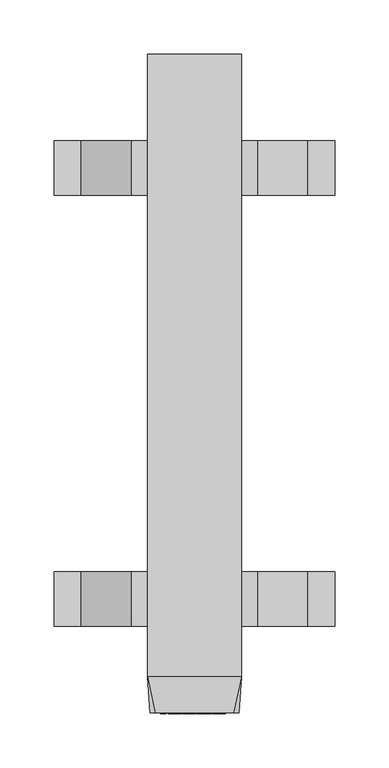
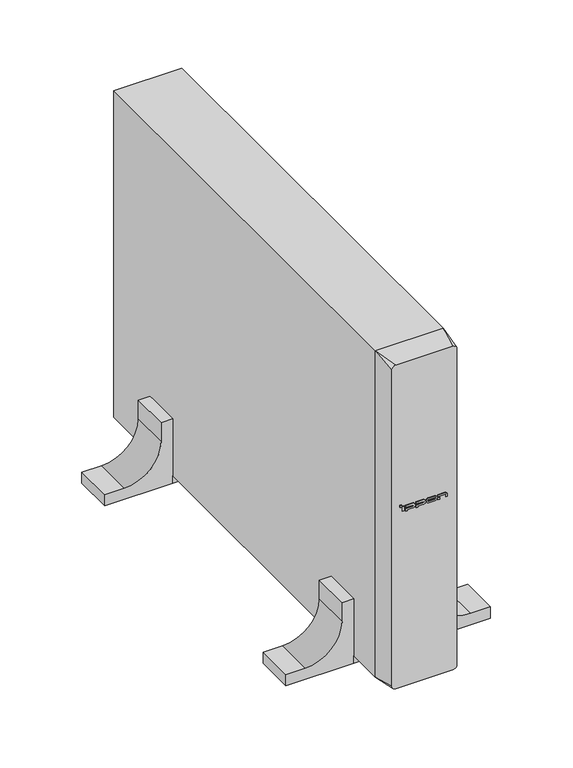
"""IFC4 building model written with IfcOpenShell, lengths in millimetres: proxy geometry, IPPON_EBM_Smart Winner II_1500_2000_2000E_3000ВА : EBM Smart Winner II 2000/3000 ВА."""

from ifc_helpers import new_model, si_unit, point, frame, frame_2d, origin, origin_with_axes, place, context, project, spatial, polyline, circle_curve, trimmed, segment, composite_curve, outline, extrude, source, transform, mapped, element, save
from ifc_brep_helpers import plane_surface, spline_surface, advanced_brep


def electrical_equipment_ef5bf3b2(model_context):
    return source(origin(), model_context, "Body", "SolidModel", [
        extrude(outline(polyline([(-29.1718133, -1.0), (-31.1718133, -1.0), (-31.1718133, 0.0), (-29.1718133, 0.0), (-29.1718133, -1.0)])), frame((0.0, 0.0, 253.8445835), z_axis=(0.0, 0.0, 1.0), x_axis=(1.0, 0.0, 0.0)), (0.0, 0.0, 1.0), 2.3),
        extrude(outline(polyline([(18.6035474, -1.0), (16.6035474, -1.0), (16.6035474, 0.0), (18.6035474, 0.0), (18.6035474, -1.0)])), frame((0.0, 0.0, 247.8445835), z_axis=(0.0, 0.0, 1.0), x_axis=(1.0, 0.0, 0.0)), (0.0, 0.0, 1.0), 2.2268231),
        extrude(outline(polyline([(-26.438565, -1.0), (-28.4833324, -1.0), (-28.4833324, 0.0), (-26.438565, 0.0), (-26.438565, -1.0)])), frame((0.0, 0.0, 247.8445835), z_axis=(0.0, 0.0, 1.0), x_axis=(1.0, 0.0, 0.0)), (0.0, 0.0, 1.0), 6.0),
        extrude(outline(composite_curve([segment(polyline([(251.5821435, -24.2241109), (251.5821435, -14.9923536)]), True, "CONTINUOUS"), segment(trimmed(circle_curve(frame_2d((250.7256642, -14.9923536)), 0.8564793), [point((251.5821435, -14.9923536))], [point((249.8691849, -14.9923536))], True, "CARTESIAN"), True, "CONTINUOUS"), segment(polyline([(249.8691849, -14.9923536), (249.8691849, -24.2241109), (246.3786803, -24.2241109), (246.3786803, -22.2241109), (247.8445835, -22.2241109), (247.8445835, -15.1486036)]), True, "CONTINUOUS"), segment(trimmed(circle_curve(frame_2d((250.8445835, -15.1486036)), 3.0), [point((247.8445835, -15.1486036))], [point((253.8445835, -15.1486036))], False, "CARTESIAN"), True, "CONTINUOUS"), segment(polyline([(253.8445835, -15.1486036), (253.8445835, -24.2241109), (251.5821435, -24.2241109)]), True, "CONTINUOUS")], self_intersect=False)), frame((0.0, -1.0, 0.0), z_axis=(0.0, 1.0, 0.0), x_axis=(0.0, 0.0, 1.0)), (0.0, 0.0, 1.0), 1.0),
        extrude(outline(composite_curve([segment(polyline([(251.5821435, -11.0171091), (251.5821435, -1.7853518)]), True, "CONTINUOUS"), segment(trimmed(circle_curve(frame_2d((250.7256642, -1.7853518)), 0.8564793), [point((251.5821435, -1.7853518))], [point((249.8691849, -1.7853518))], True, "CARTESIAN"), True, "CONTINUOUS"), segment(polyline([(249.8691849, -1.7853518), (249.8691849, -11.0171091), (246.3786803, -11.0171091), (246.3786803, -9.0171091), (247.8445835, -9.0171091), (247.8445835, -1.9416018)]), True, "CONTINUOUS"), segment(trimmed(circle_curve(frame_2d((250.8445835, -1.9416018)), 3.0), [point((247.8445835, -1.9416018))], [point((253.8445835, -1.9416018))], False, "CARTESIAN"), True, "CONTINUOUS"), segment(polyline([(253.8445835, -1.9416018), (253.8445835, -11.0171091), (251.5821435, -11.0171091)]), True, "CONTINUOUS")], self_intersect=False)), frame((0.0, -1.0, 0.0), z_axis=(0.0, 1.0, 0.0), x_axis=(0.0, 0.0, 1.0)), (0.0, 0.0, 1.0), 1.0),
        extrude(outline(composite_curve([segment(trimmed(circle_curve(frame_2d((250.8445835, 12.558657)), 3.0), [point((247.8445835, 12.558657))], [point((253.8445835, 12.558657))], False, "CARTESIAN"), True, "CONTINUOUS"), segment(polyline([(253.8445835, 12.558657), (253.8445835, 4.958657)]), True, "CONTINUOUS"), segment(trimmed(circle_curve(frame_2d((250.8445835, 4.958657)), 3.0), [point((253.8445835, 4.958657))], [point((247.8445835, 4.958657))], False, "CARTESIAN"), True, "CONTINUOUS"), segment(polyline([(247.8445835, 4.958657), (247.8445835, 12.558657)]), True, "CONTINUOUS")], self_intersect=False), holes=[composite_curve([segment(polyline([(249.8691849, 12.714907), (249.8691849, 4.802407)]), True, "CONTINUOUS"), segment(trimmed(circle_curve(frame_2d((250.7256642, 4.802407)), 0.8564793), [point((249.8691849, 4.802407))], [point((251.5821435, 4.802407))], True, "CARTESIAN"), True, "CONTINUOUS"), segment(polyline([(251.5821435, 4.802407), (251.5821435, 12.714907)]), True, "CONTINUOUS"), segment(trimmed(circle_curve(frame_2d((250.7256642, 12.714907)), 0.8564793), [point((251.5821435, 12.714907))], [point((249.8691849, 12.714907))], True, "CARTESIAN"), True, "CONTINUOUS")], self_intersect=False)]), frame((0.0, -1.0, 0.0), z_axis=(0.0, 1.0, 0.0), x_axis=(0.0, 0.0, 1.0)), (0.0, 0.0, 1.0), 1.0),
        extrude(outline(composite_curve([segment(polyline([(251.5821435, 16.6035474), (251.5821435, 25.8353046)]), True, "CONTINUOUS"), segment(trimmed(circle_curve(frame_2d((250.7256642, 25.8353046)), 0.8564793), [point((251.5821435, 25.8353046))], [point((250.7256642, 26.6917839))], True, "CARTESIAN"), True, "CONTINUOUS"), segment(polyline([(250.7256642, 26.6917839), (247.8445835, 26.6917839), (247.8445835, 28.6317921), (251.375, 28.6317921)]), True, "CONTINUOUS"), segment(trimmed(circle_curve(frame_2d((250.8445835, 25.6790546)), 3.0), [point((251.375, 28.6317921))], [point((253.8445835, 25.6790546))], False, "CARTESIAN"), True, "CONTINUOUS"), segment(polyline([(253.8445835, 25.6790546), (253.8445835, 16.6035474), (251.5821435, 16.6035474)]), True, "CONTINUOUS")], self_intersect=False)), frame((0.0, -1.0, 0.0), z_axis=(0.0, 1.0, 0.0), x_axis=(0.0, 0.0, 1.0)), (0.0, 0.0, 1.0), 1.0),
        extrude(outline(polyline([(-43.25, 528.0), (43.25, 528.0), (43.25, 478.0), (-43.25, 478.0), (-43.25, 528.0)])), origin_with_axes(), (0.0, 0.0, 1.0), 10.0),
        extrude(outline(polyline([(43.25, 80.0), (-43.25, 80.0), (-43.25, 130.0), (43.25, 130.0), (43.25, 80.0)])), origin_with_axes(), (0.0, 0.0, 1.0), 10.0),
        extrude(outline(composite_curve([segment(polyline([(0.0, -43.25), (86.5, -43.25), (86.5, -58.25), (61.5, -58.25)]), True, "CONTINUOUS"), segment(trimmed(circle_curve(frame_2d((61.5, -104.75)), 46.5), [point((61.5, -58.25))], [point((15.0, -104.75))], True, "CARTESIAN"), True, "CONTINUOUS"), segment(polyline([(15.0, -104.75), (15.0, -129.75), (0.0, -129.75), (0.0, -43.25)]), True, "CONTINUOUS")], self_intersect=False)), frame((0.0, 478.0, 0.0), z_axis=(0.0, 1.0, 0.0), x_axis=(0.0, 0.0, 1.0)), (0.0, 0.0, 1.0), 50.0),
        extrude(outline(composite_curve([segment(polyline([(0.0, -43.25), (86.5, -43.25), (86.5, -58.25), (61.5, -58.25)]), True, "CONTINUOUS"), segment(trimmed(circle_curve(frame_2d((61.5, -104.75)), 46.5), [point((61.5, -58.25))], [point((15.0, -104.75))], True, "CARTESIAN"), True, "CONTINUOUS"), segment(polyline([(15.0, -104.75), (15.0, -129.75), (0.0, -129.75), (0.0, -43.25)]), True, "CONTINUOUS")], self_intersect=False)), frame((0.0, 80.0, 0.0), z_axis=(0.0, 1.0, 0.0), x_axis=(0.0, 0.0, 1.0)), (0.0, 0.0, 1.0), 50.0),
        extrude(outline(composite_curve([segment(polyline([(0.0, 129.75), (15.0, 129.75), (15.0, 104.75)]), True, "CONTINUOUS"), segment(trimmed(circle_curve(frame_2d((61.5, 104.75)), 46.5), [point((15.0, 104.75))], [point((61.5, 58.25))], True, "CARTESIAN"), True, "CONTINUOUS"), segment(polyline([(61.5, 58.25), (86.5, 58.25), (86.5, 43.25), (0.0, 43.25), (0.0, 129.75)]), True, "CONTINUOUS")], self_intersect=False)), frame((0.0, 478.0, 0.0), z_axis=(0.0, 1.0, 0.0), x_axis=(0.0, 0.0, 1.0)), (0.0, 0.0, 1.0), 50.0),
        extrude(outline(composite_curve([segment(polyline([(0.0, 43.25), (0.0, 129.75), (15.0, 129.75), (15.0, 104.75)]), True, "CONTINUOUS"), segment(trimmed(circle_curve(frame_2d((61.5, 104.75)), 46.5), [point((15.0, 104.75))], [point((61.5, 58.25))], True, "CARTESIAN"), True, "CONTINUOUS"), segment(polyline([(61.5, 58.25), (86.5, 58.25), (86.5, 43.25), (0.0, 43.25)]), True, "CONTINUOUS")], self_intersect=False)), frame((0.0, 80.0, 0.0), z_axis=(0.0, 1.0, 0.0), x_axis=(0.0, 0.0, 1.0)), (0.0, 0.0, 1.0), 50.0),
        advanced_brep(
        [(36.25, 0.0, 12.0), (41.25, 0.0, 17.0), (41.25, 0.0, 441.0), (36.25, 0.0, 446.0), (-36.25, 0.0, 446.0), (-41.25, 0.0, 441.0), (-41.25, 0.0, 17.0), (-36.25, 0.0, 12.0), (43.25, 33.0, 10.0), (-43.25, 33.0, 10.0), (-43.25, 33.0, 448.0), (43.25, 33.0, 448.0)],
        [
            (0, 1, circle_curve(frame((36.25, 0.0, 17.0), z_axis=(0.0, -1.0, 0.0), x_axis=(-1.0, 0.0, 0.0)), 5.0)),
            (1, 2),
            (2, 3, circle_curve(frame((36.25, 0.0, 441.0), z_axis=(0.0, -1.0, 0.0), x_axis=(-1.0, 0.0, 0.0)), 5.0)),
            (3, 4),
            (4, 5, circle_curve(frame((-36.25, 0.0, 441.0), z_axis=(0.0, -1.0, 0.0), x_axis=(-1.0, 0.0, 0.0)), 5.0)),
            (5, 6),
            (6, 7, circle_curve(frame((-36.25, 0.0, 17.0), z_axis=(0.0, -1.0, 0.0), x_axis=(-1.0, 0.0, 0.0)), 5.0)),
            (7, 0),
            (8, 9),
            (9, 10),
            (10, 11),
            (11, 8),
            (0, 8),
            (8, 1),
            (7, 9),
            (6, 9),
            (5, 10),
            (4, 10),
            (3, 11),
            (2, 11),
        ],
        [
            plane_surface(frame((0.0, 0.0, 229.0), z_axis=(0.0, -1.0, 0.0), x_axis=(1.0, 0.0, 0.0))),
            plane_surface(frame((0.0, 33.0, 229.0), z_axis=(0.0, 1.0, 0.0), x_axis=(1.0, 0.0, 0.0))),
            spline_surface(2, 1, [[(43.25, 33.0, 10.0), (36.25, 0.0, 12.0)], [(43.25, 33.0, 10.0), (41.25, 0.0, 12.0)], [(43.25, 33.0, 10.0), (41.25, 0.0, 17.0)]], [3, 3], [2, 2], [0.0, 1.0], [0.0, 1.0], weights=[[1.0, 1.0], [0.7071067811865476, 0.7071067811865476], [1.0, 1.0]]),
            plane_surface(frame((0.0, 33.0, 10.0), z_axis=(0.0, -0.060495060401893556, -0.9981684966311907), x_axis=(1.0, 0.0, 0.0))),
            spline_surface(2, 1, [[(-43.25, 33.0, 10.0), (-41.25, 0.0, 17.0)], [(-43.25, 33.0, 10.0), (-41.25, 0.0, 12.0)], [(-43.25, 33.0, 10.0), (-36.25, 0.0, 12.0)]], [3, 3], [2, 2], [0.0, 1.0], [0.0, 1.0], weights=[[1.0, 1.0], [0.7071067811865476, 0.7071067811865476], [1.0, 1.0]]),
            plane_surface(frame((-43.25, 33.0, 229.0), z_axis=(-0.998168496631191, -0.06049506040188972, 0.0), x_axis=(0.0, 0.0, -1.0))),
            spline_surface(2, 1, [[(-43.25, 33.0, 448.0), (-36.25, 0.0, 446.0)], [(-43.25, 33.0, 448.0), (-41.25, 0.0, 446.0)], [(-43.25, 33.0, 448.0), (-41.25, 0.0, 441.0)]], [3, 3], [2, 2], [0.0, 1.0], [0.0, 1.0], weights=[[1.0, 1.0], [0.7071067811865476, 0.7071067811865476], [1.0, 1.0]]),
            plane_surface(frame((0.0, 33.0, 448.0), z_axis=(0.0, -0.06049506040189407, 0.9981684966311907), x_axis=(-1.0, 0.0, 0.0))),
            spline_surface(2, 1, [[(43.25, 33.0, 448.0), (41.25, 0.0, 441.0)], [(43.25, 33.0, 448.0), (41.25, 0.0, 446.0)], [(43.25, 33.0, 448.0), (36.25, 0.0, 446.0)]], [3, 3], [2, 2], [0.0, 1.0], [0.0, 1.0], weights=[[1.0, 1.0], [0.7071067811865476, 0.7071067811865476], [1.0, 1.0]]),
            plane_surface(frame((43.25, 33.0, 229.0), z_axis=(0.9981684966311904, -0.06049506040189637, 0.0), x_axis=(0.0, 0.0, 1.0))),
        ],
        [
            (0, [[1, 2, 3, 4, 5, 6, 7, 8]]),
            (1, [[9, 10, 11, 12]]),
            (2, [[-1, 13, 14]]),
            (3, [[-9, -13, -8, 15]]),
            (4, [[-7, 16, -15]]),
            (5, [[-10, -16, -6, 17]]),
            (6, [[-5, 18, -17]]),
            (7, [[-11, -18, -4, 19]]),
            (8, [[-3, 20, -19]]),
            (9, [[-12, -20, -2, -14]]),
        ],
    ),
        extrude(outline(polyline([(43.25, 33.0), (-43.25, 33.0), (-43.25, 608.0), (43.25, 608.0), (43.25, 33.0)])), frame((0.0, 0.0, 10.0), z_axis=(0.0, 0.0, 1.0), x_axis=(1.0, 0.0, 0.0)), (0.0, 0.0, 1.0), 438.0),
    ])


if __name__ == "__main__":
    model = new_model("IFC4")
    model_context = context("Model", 3, world=origin())
    ifc_project = project(units=[si_unit("LENGTHUNIT", "METRE", prefix="MILLI")], contexts=[model_context])
    site = spatial("IfcSite", under=ifc_project)
    building = spatial("IfcBuilding", under=site)
    placement = place(None, origin())
    electrical_equipment_shape = electrical_equipment_ef5bf3b2(model_context)
    element("IfcBuildingElementProxy", 1, Name="IPPON_EBM_Smart Winner II_1500_2000_2000E_3000ВА : EBM Smart Winner II 2000/3000 ВА", ObjectType="IPPON_EBM_Smart Winner II_1500_2000_2000E_3000ВА : EBM Smart Winner II 2000/3000 ВА", at=placement, inside=building, context=model_context, shape_type="MappedRepresentation", body=[
        mapped(electrical_equipment_shape, transform((0.0, 0.0, 0.0), x_axis=(1.0, 0.0, 0.0), y_axis=(0.0, 1.0, 0.0), z_axis=(0.0, 0.0, 1.0))),
    ])
    save(model, "model.ifc")
